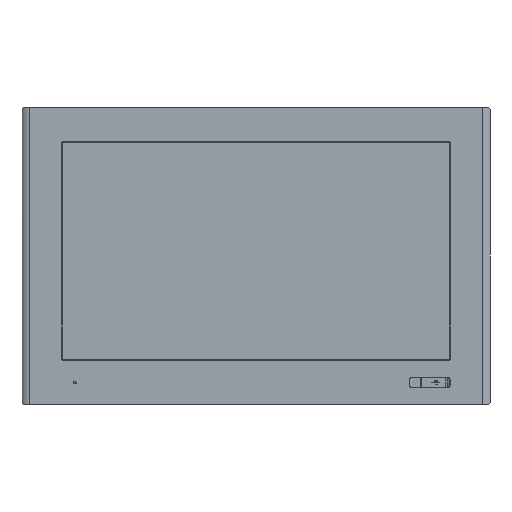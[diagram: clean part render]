
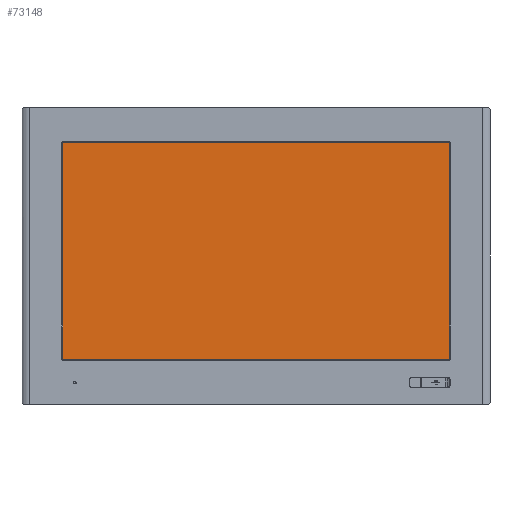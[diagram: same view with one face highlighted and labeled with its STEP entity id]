
A CAD part, front view. The second image highlights one B-rep face of the part: STEP entity #73148.
In plain terms, the highlighted planar face has unit normal (0, -1, 0).
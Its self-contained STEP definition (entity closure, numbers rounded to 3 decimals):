
#72955=DIRECTION('',(1.,0.,0.));
#72956=VECTOR('',#72955,481.3);
#72957=CARTESIAN_POINT('',(-240.65,-3.1,133.95));
#72958=LINE('',#72957,#72956);
#72959=DIRECTION('',(0.,0.,-1.));
#72960=VECTOR('',#72959,272.4);
#72961=CARTESIAN_POINT('',(240.65,-3.1,133.95));
#72962=LINE('',#72961,#72960);
#72963=DIRECTION('',(-1.,0.,0.));
#72964=VECTOR('',#72963,481.3);
#72965=CARTESIAN_POINT('',(240.65,-3.1,-138.45));
#72966=LINE('',#72965,#72964);
#72967=DIRECTION('',(0.,0.,1.));
#72968=VECTOR('',#72967,272.4);
#72969=CARTESIAN_POINT('',(-240.65,-3.1,-138.45));
#72970=LINE('',#72969,#72968);
#73011=CARTESIAN_POINT('',(-240.65,-3.1,133.95));
#73012=CARTESIAN_POINT('',(240.65,-3.1,133.95));
#73013=VERTEX_POINT('',#73011);
#73014=VERTEX_POINT('',#73012);
#73015=CARTESIAN_POINT('',(240.65,-3.1,-138.45));
#73016=VERTEX_POINT('',#73015);
#73017=CARTESIAN_POINT('',(-240.65,-3.1,-138.45));
#73018=VERTEX_POINT('',#73017);
#73133=CARTESIAN_POINT('',(0.,-3.1,-2.25));
#73134=DIRECTION('',(0.,-1.,0.));
#73135=DIRECTION('',(1.,0.,0.));
#73136=AXIS2_PLACEMENT_3D('',#73133,#73134,#73135);
#73137=PLANE('',#73136);
#73139=ORIENTED_EDGE('',*,*,#73138,.T.);
#73141=ORIENTED_EDGE('',*,*,#73140,.T.);
#73143=ORIENTED_EDGE('',*,*,#73142,.T.);
#73145=ORIENTED_EDGE('',*,*,#73144,.T.);
#73146=EDGE_LOOP('',(#73139,#73141,#73143,#73145));
#73147=FACE_OUTER_BOUND('',#73146,.F.);
#73138=EDGE_CURVE('',#73013,#73014,#72958,.T.);
#73140=EDGE_CURVE('',#73014,#73016,#72962,.T.);
#73142=EDGE_CURVE('',#73016,#73018,#72966,.T.);
#73144=EDGE_CURVE('',#73018,#73013,#72970,.T.);
#73148=ADVANCED_FACE('',(#73147),#73137,.T.);
